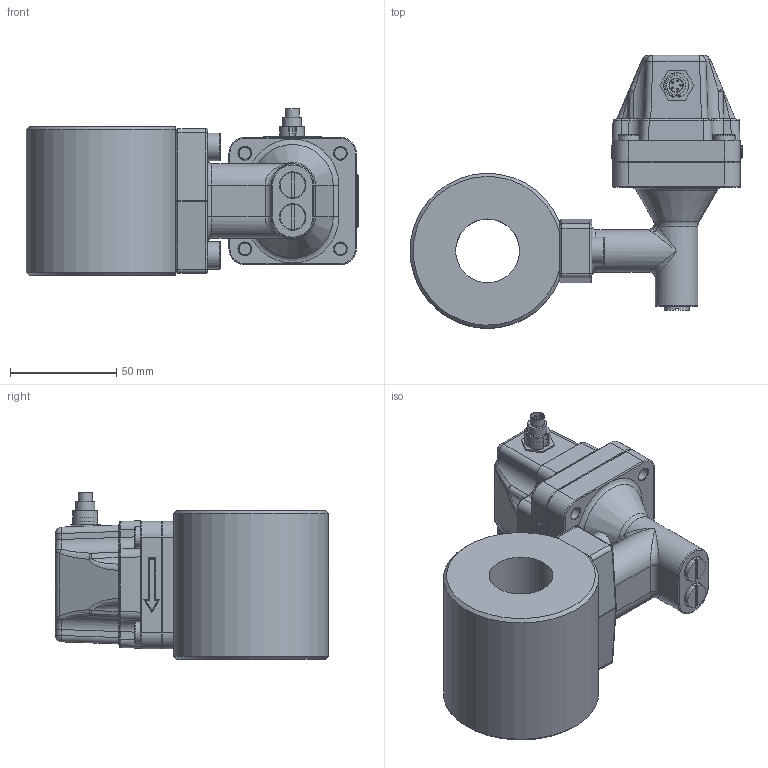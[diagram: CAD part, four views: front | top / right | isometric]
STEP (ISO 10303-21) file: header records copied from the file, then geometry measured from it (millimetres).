
FILE_DESCRIPTION(/* description */ ('Alibre Inc.'),/* implementation_level */ '2;1');
FILE_NAME(/* name */ 'export0',/* time_stamp */ '2012-11-14T15:42:49+01:00',/* author */ (''),/* organization */ (''),/* preprocessor_version */ 'ST-DEVELOPER v14',/* originating_system */ 'Alibre',/* authorisation */ '');
FILE_SCHEMA (('CONFIG_CONTROL_DESIGN'));
Length unit declared in the file: centimetre
Products named in the file (9): ID_1; ID_2; ID_3; ID_4; ID_5; ID_6; ID_7
Bounding box: 156.25 x 128.5 x 78.5 mm (x, y, z)
Volume: 411164.2 mm3; surface area: 93576.6 mm2
Topology: 13 solids, 14 shells, 843 faces, 1841 edges, 1062 vertices
Faces by surface type: plane 268, cylinder 261, bspline 132, cone 92, torus 52, sphere 38
Full cylindrical faces by diameter (mm): 0.75 x5, 3.198 x4, 6 x16, 6.2 x1, 6.4 x4, 6.7 x1, 8 x4, 8.5 x2, 8.7 x2, 8.9 x1, 9.6 x4, 10 x4, 11 x4, 11.75 x2, 12 x2, 13 x2, 14 x2, 17.2 x2, 21.1 x2, 30 x1, 32 x1, 47 x1
Entity records: 45184 total; most frequent: CARTESIAN_POINT 29422, ORIENTED_EDGE 2982, DIRECTION 2909, EDGE_CURVE 1491, AXIS2_PLACEMENT_3D 1307, VERTEX_POINT 913, EDGE_LOOP 892, FACE_BOUND 892
